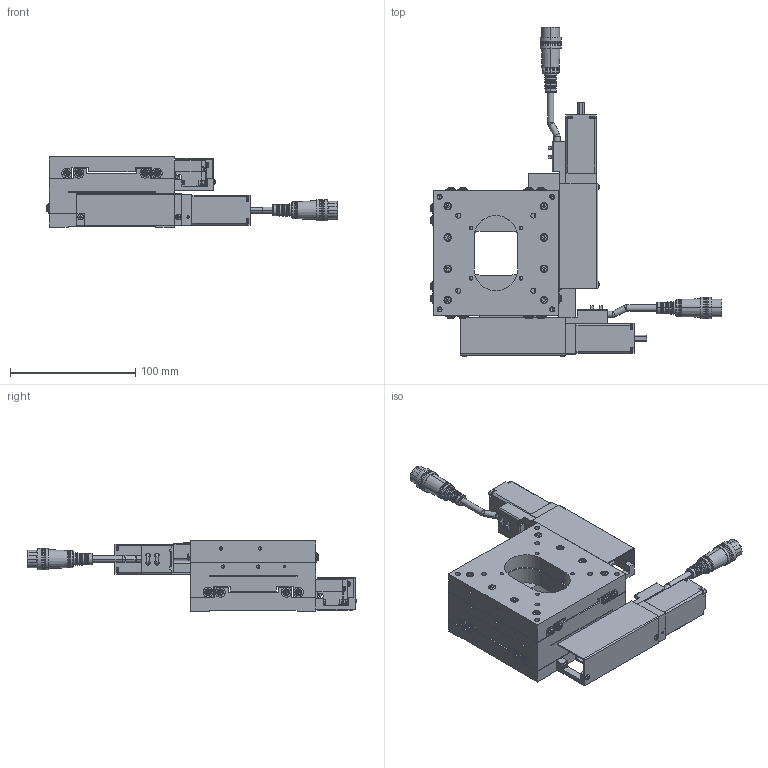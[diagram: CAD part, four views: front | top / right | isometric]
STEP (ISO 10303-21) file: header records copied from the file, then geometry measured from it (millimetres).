
FILE_DESCRIPTION (( 'STEP AP203' ), '1' );
FILE_NAME ('YA10A-R2H01-RRR.STEP', '2019-06-10T02:58:08', ( '' ), ( '' ), 'SwSTEP 2.0', 'SolidWorks 2018', '' );
FILE_SCHEMA (( 'CONFIG_CONTROL_DESIGN' ));
Length unit declared in the file: millimetre
Products named in the file (14): base-Part-1; base-Part-2; second table-Part-3; second table-Part-2; second table; base; table; second table-Part-4; second table-Part-1; base-Part-3; YA10A-R2H01-RRR; base-Part-4; second table-Part-5; base-Part-5
Assembly tree (13 placements, depth 3):
  YA10A-R2H01-RRR
    second table
      second table-Part-1
      second table-Part-2
      second table-Part-3
      second table-Part-4
      second table-Part-5
    base
      base-Part-1
      base-Part-2
      base-Part-3
      base-Part-4
      base-Part-5
    table
Bounding box: 232.98 x 263.18 x 56 mm (x, y, z)
Volume: 554711.2 mm3; surface area: 178521.9 mm2
Topology: 11 solids, 19 shells, 3372 faces, 8341 edges, 5075 vertices
Faces by surface type: plane 2032, cylinder 664, cone 480, torus 120, sphere 76
Entity records: 99844 total; most frequent: DIRECTION 17876, CARTESIAN_POINT 17066, ORIENTED_EDGE 16362, EDGE_CURVE 8181, AXIS2_PLACEMENT_3D 6417, VERTEX_POINT 5063, LINE 5042, VECTOR 5042
